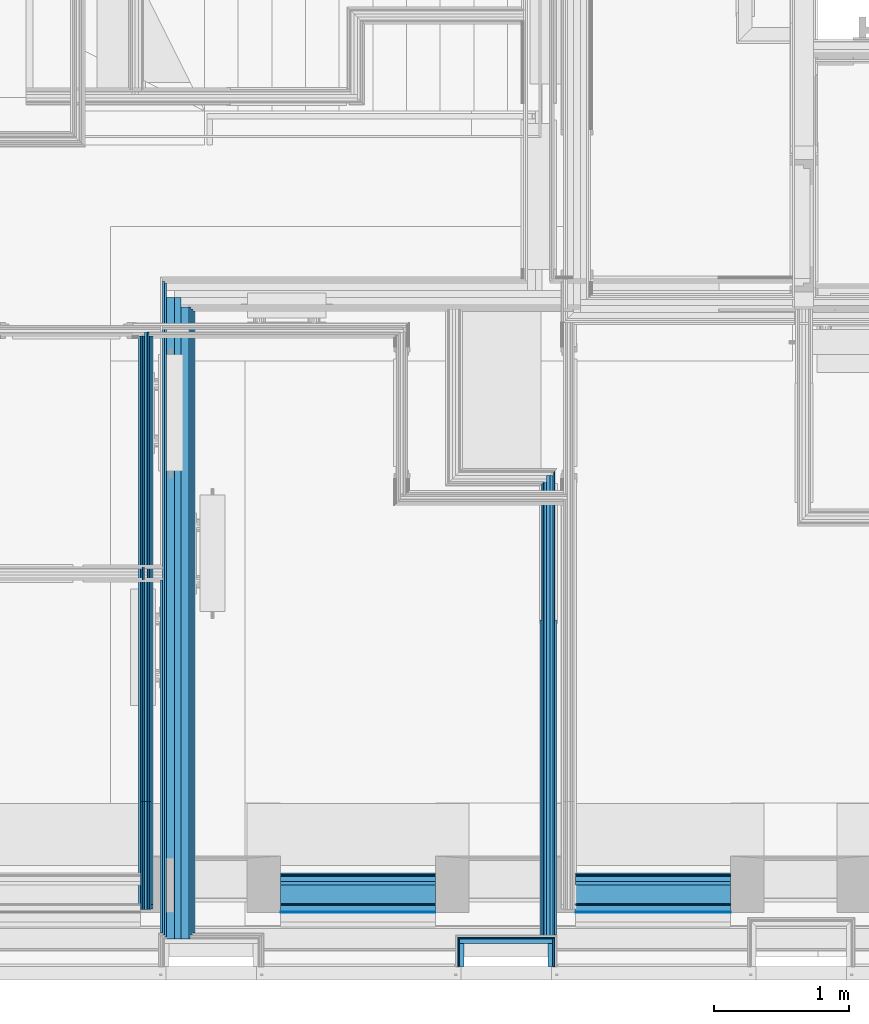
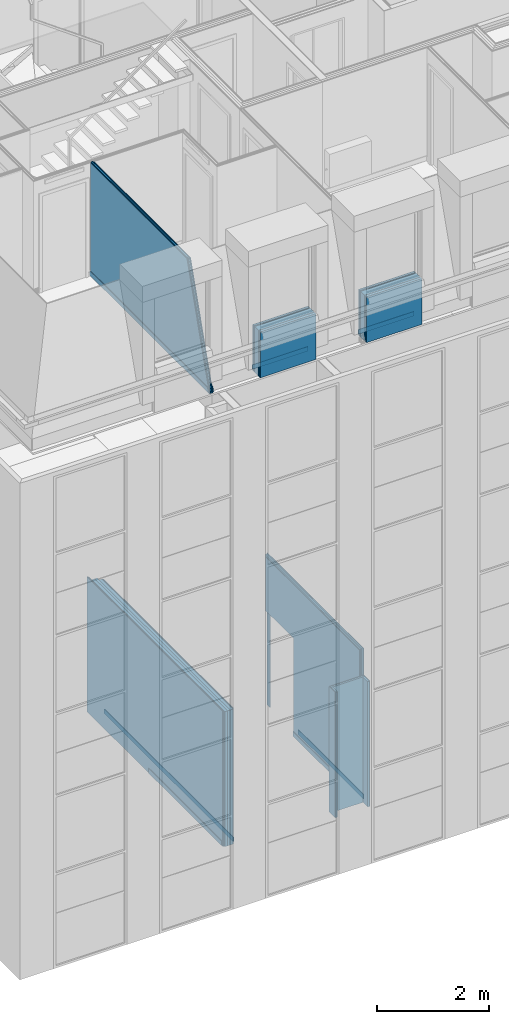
# One storey, part 15 of 169: 45 building element parts, 2 openings, 8 elements without a shape of their own.
"""IFC2X3 building model written with IfcOpenShell, lengths in metres."""

from ifc_helpers import new_model, entity, si_unit, converted_unit, derived_unit, money_unit, direction, frame, frame_2d, origin_with_axes, place, context, subcontext, project, spatial, polyline, rectangle, outline, extrude, clip, halfspace, material, type_object, element, aggregate, save


model = new_model("IFC2X3")

# Units and contexts
model_context = context("Model", 3, precision=1e-05, world=origin_with_axes(), true_north=direction((0.0, 1.0)))
body_context = subcontext(model_context, "Body", "Model", "MODEL_VIEW", scale=1.0)
ifc_project = project(units=[si_unit("LENGTHUNIT", "METRE"), si_unit("AREAUNIT", "SQUARE_METRE"), si_unit("VOLUMEUNIT", "CUBIC_METRE"), si_unit("ABSORBEDDOSEUNIT", "GRAY"), si_unit("AMOUNTOFSUBSTANCEUNIT", "MOLE"), si_unit("DOSEEQUIVALENTUNIT", "SIEVERT"), si_unit("ELECTRICCAPACITANCEUNIT", "FARAD"), si_unit("ELECTRICCHARGEUNIT", "COULOMB"), si_unit("ELECTRICCONDUCTANCEUNIT", "SIEMENS"), si_unit("ELECTRICCURRENTUNIT", "AMPERE"), si_unit("ELECTRICRESISTANCEUNIT", "OHM"), si_unit("ELECTRICVOLTAGEUNIT", "VOLT"), si_unit("ENERGYUNIT", "JOULE"), si_unit("FORCEUNIT", "NEWTON"), si_unit("FREQUENCYUNIT", "HERTZ"), si_unit("ILLUMINANCEUNIT", "LUX"), si_unit("INDUCTANCEUNIT", "HENRY"), si_unit("LUMINOUSFLUXUNIT", "LUMEN"), si_unit("LUMINOUSINTENSITYUNIT", "CANDELA"), si_unit("MAGNETICFLUXDENSITYUNIT", "TESLA"), si_unit("MAGNETICFLUXUNIT", "WEBER"), si_unit("MASSUNIT", "GRAM"), converted_unit("PLANEANGLEUNIT", "degree", entity("IfcReal", 0.0174532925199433), si_unit("PLANEANGLEUNIT", "RADIAN"), dimensions=[0, 0, 0, 0, 0, 0, 0]), si_unit("POWERUNIT", "WATT"), si_unit("PRESSUREUNIT", "PASCAL"), si_unit("RADIOACTIVITYUNIT", "BECQUEREL"), si_unit("SOLIDANGLEUNIT", "STERADIAN"), si_unit("THERMODYNAMICTEMPERATUREUNIT", "KELVIN"), si_unit("TIMEUNIT", "SECOND"), derived_unit("ACCELERATIONUNIT", [(si_unit("LENGTHUNIT", "METRE"), 1), (si_unit("TIMEUNIT", "SECOND"), -2)]), derived_unit("ANGULARVELOCITYUNIT", [(converted_unit("PLANEANGLEUNIT", "degree", entity("IfcReal", 0.0174532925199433), si_unit("PLANEANGLEUNIT", "RADIAN"), dimensions=[0, 0, 0, 0, 0, 0, 0]), 1), (si_unit("TIMEUNIT", "SECOND"), -1)]), derived_unit("CURVATUREUNIT", [(converted_unit("PLANEANGLEUNIT", "degree", entity("IfcReal", 0.0174532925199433), si_unit("PLANEANGLEUNIT", "RADIAN"), dimensions=[0, 0, 0, 0, 0, 0, 0]), 1), (si_unit("LENGTHUNIT", "METRE"), -1)]), derived_unit("DYNAMICVISCOSITYUNIT", [(si_unit("PRESSUREUNIT", "PASCAL"), 1), (si_unit("TIMEUNIT", "SECOND"), 1)]), derived_unit("HEATFLUXDENSITYUNIT", [(si_unit("POWERUNIT", "WATT"), 1), (si_unit("LENGTHUNIT", "METRE"), -2)]), derived_unit("HEATINGVALUEUNIT", [(si_unit("ENERGYUNIT", "JOULE"), 1), (si_unit("MASSUNIT", "GRAM"), -1)]), derived_unit("INTEGERCOUNTRATEUNIT", [(si_unit("TIMEUNIT", "SECOND"), -1)]), derived_unit("IONCONCENTRATIONUNIT", [(si_unit("MASSUNIT", "GRAM"), 1), (si_unit("VOLUMEUNIT", "CUBIC_METRE"), -1)]), derived_unit("ISOTHERMALMOISTURECAPACITYUNIT", [(si_unit("VOLUMEUNIT", "CUBIC_METRE"), 1), (si_unit("MASSUNIT", "GRAM"), -1)]), derived_unit("KINEMATICVISCOSITYUNIT", [(si_unit("AREAUNIT", "SQUARE_METRE"), 1), (si_unit("TIMEUNIT", "SECOND"), -1)]), derived_unit("LINEARFORCEUNIT", [(si_unit("FORCEUNIT", "NEWTON"), 1), (si_unit("LENGTHUNIT", "METRE"), -1)]), derived_unit("LINEARMOMENTUNIT", [(si_unit("FORCEUNIT", "NEWTON"), 1), (si_unit("LENGTHUNIT", "METRE"), -1)]), derived_unit("LINEARSTIFFNESSUNIT", [(si_unit("FORCEUNIT", "NEWTON"), 1), (si_unit("LENGTHUNIT", "METRE"), -1)]), derived_unit("LINEARVELOCITYUNIT", [(si_unit("LENGTHUNIT", "METRE"), 1), (si_unit("TIMEUNIT", "SECOND"), -1)]), derived_unit("LUMINOUSINTENSITYDISTRIBUTIONUNIT", [(si_unit("LUMINOUSINTENSITYUNIT", "CANDELA"), 1), (si_unit("LUMINOUSFLUXUNIT", "LUMEN"), -1)]), derived_unit("MASSDENSITYUNIT", [(si_unit("MASSUNIT", "GRAM"), 1), (si_unit("VOLUMEUNIT", "CUBIC_METRE"), -1)]), derived_unit("MASSFLOWRATEUNIT", [(si_unit("MASSUNIT", "GRAM"), 1), (si_unit("TIMEUNIT", "SECOND"), -1)]), derived_unit("MASSPERLENGTHUNIT", [(si_unit("MASSUNIT", "GRAM"), 1), (si_unit("LENGTHUNIT", "METRE"), -1)]), derived_unit("MODULUSOFELASTICITYUNIT", [(si_unit("FORCEUNIT", "NEWTON"), 1), (si_unit("AREAUNIT", "SQUARE_METRE"), -1)]), derived_unit("MODULUSOFLINEARSUBGRADEREACTIONUNIT", [(si_unit("FORCEUNIT", "NEWTON"), 1), (si_unit("LENGTHUNIT", "METRE"), -2)]), derived_unit("MODULUSOFROTATIONALSUBGRADEREACTIONUNIT", [(si_unit("FORCEUNIT", "NEWTON"), 1), (si_unit("LENGTHUNIT", "METRE"), 1)]), derived_unit("MODULUSOFSUBGRADEREACTIONUNIT", [(si_unit("FORCEUNIT", "NEWTON"), 1), (si_unit("VOLUMEUNIT", "CUBIC_METRE"), -1)]), derived_unit("MOISTUREDIFFUSIVITYUNIT", [(si_unit("VOLUMEUNIT", "CUBIC_METRE"), 1), (si_unit("TIMEUNIT", "SECOND"), -1)]), derived_unit("MOLECULARWEIGHTUNIT", [(si_unit("MASSUNIT", "GRAM"), 1), (si_unit("AMOUNTOFSUBSTANCEUNIT", "MOLE"), -1)]), derived_unit("PLANARFORCEUNIT", [(si_unit("FORCEUNIT", "NEWTON"), 1), (si_unit("LENGTHUNIT", "METRE"), -2)]), derived_unit("ROTATIONALFREQUENCYUNIT", [(si_unit("TIMEUNIT", "SECOND"), -1)]), derived_unit("ROTATIONALMASSUNIT", [(si_unit("MASSUNIT", "GRAM"), 1), (si_unit("LENGTHUNIT", "METRE"), 2)]), derived_unit("ROTATIONALSTIFFNESSUNIT", [(si_unit("FORCEUNIT", "NEWTON"), 1), (si_unit("LENGTHUNIT", "METRE"), 1), (converted_unit("PLANEANGLEUNIT", "degree", entity("IfcReal", 0.0174532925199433), si_unit("PLANEANGLEUNIT", "RADIAN"), dimensions=[0, 0, 0, 0, 0, 0, 0]), -1)]), derived_unit("SECTIONAREAINTEGRALUNIT", [(si_unit("LENGTHUNIT", "METRE"), 5)]), derived_unit("SECTIONMODULUSUNIT", [(si_unit("LENGTHUNIT", "METRE"), 3)]), derived_unit("SHEARMODULUSUNIT", [(si_unit("FORCEUNIT", "NEWTON"), 1), (si_unit("AREAUNIT", "SQUARE_METRE"), -1)]), derived_unit("SOUNDPOWERUNIT", [(si_unit("ENERGYUNIT", "JOULE"), 1), (si_unit("TIMEUNIT", "SECOND"), -1)]), derived_unit("SPECIFICHEATCAPACITYUNIT", [(si_unit("FORCEUNIT", "NEWTON"), 1), (si_unit("MASSUNIT", "GRAM"), -1), (si_unit("THERMODYNAMICTEMPERATUREUNIT", "KELVIN"), -1)]), derived_unit("TEMPERATUREGRADIENTUNIT", [(si_unit("THERMODYNAMICTEMPERATUREUNIT", "KELVIN"), 1), (si_unit("LENGTHUNIT", "METRE"), -1)]), derived_unit("THERMALADMITTANCEUNIT", [(si_unit("POWERUNIT", "WATT"), 1), (si_unit("AREAUNIT", "SQUARE_METRE"), -1), (si_unit("THERMODYNAMICTEMPERATUREUNIT", "KELVIN"), -1)]), derived_unit("THERMALCONDUCTANCEUNIT", [(si_unit("POWERUNIT", "WATT"), 1), (si_unit("LENGTHUNIT", "METRE"), -1), (si_unit("THERMODYNAMICTEMPERATUREUNIT", "KELVIN"), -1)]), derived_unit("THERMALEXPANSIONCOEFFICIENTUNIT", [(si_unit("THERMODYNAMICTEMPERATUREUNIT", "KELVIN"), -1)]), derived_unit("THERMALRESISTANCEUNIT", [(si_unit("AREAUNIT", "SQUARE_METRE"), 1), (si_unit("POWERUNIT", "WATT"), -1)]), derived_unit("THERMALTRANSMITTANCEUNIT", [(si_unit("POWERUNIT", "WATT"), 1), (si_unit("AREAUNIT", "SQUARE_METRE"), -1), (si_unit("THERMODYNAMICTEMPERATUREUNIT", "KELVIN"), -1)]), derived_unit("TORQUEUNIT", [(si_unit("FORCEUNIT", "NEWTON"), 1), (si_unit("LENGTHUNIT", "METRE"), 1)]), derived_unit("VAPORPERMEABILITYUNIT", [(si_unit("MASSUNIT", "GRAM"), 1), (si_unit("TIMEUNIT", "SECOND"), -1)]), derived_unit("VOLUMETRICFLOWRATEUNIT", [(si_unit("VOLUMEUNIT", "CUBIC_METRE"), 1), (si_unit("TIMEUNIT", "SECOND"), -1)]), derived_unit("WARPINGCONSTANTUNIT", [(si_unit("LENGTHUNIT", "METRE"), 6)]), derived_unit("WARPINGMOMENTUNIT", [(si_unit("FORCEUNIT", "NEWTON"), 1), (si_unit("LENGTHUNIT", "METRE"), 2)]), money_unit("GBP")], contexts=[model_context])

# Site, building, storey
site_placement = place(None, origin_with_axes())
site = spatial("IfcSite", under=ifc_project, at=site_placement, Name="Site", CompositionType="ELEMENT")
building_placement = place(site_placement, origin_with_axes())
building = spatial("IfcBuilding", under=site, at=building_placement, Name="Building01", CompositionType="ELEMENT")
storey_placement = place(building_placement, frame((0.0, 0.0, 5.15), z_axis=(0.0, 0.0, 1.0), x_axis=(1.0, 0.0, 0.0)))
storey = spatial("IfcBuildingStorey", under=building, at=storey_placement, Name="1F", CompositionType="ELEMENT", Elevation=5.15)

# Wall, building element parts
wall_type_1 = type_object("IfcWallType", Name="SHE_A-Walls_Type06d_ExternalWallInsulation_48mm", PredefinedType="NOTDEFINED")
wall_1_placement = place(storey_placement, frame((6.623, 0.1, 0.0), z_axis=(0.0, 0.0, 1.0), x_axis=(0.0, 1.0, 0.0)))
wall_1 = element("IfcWall", 1, at=wall_1_placement, inside=storey, type_object=wall_type_1, Name="6D", ObjectType="SHE_A-Walls_Type06d_ExternalWallInsulation_48mm")
ifc_material_1 = material(Name="A_BSUK_Insulation")
placement_1 = place(wall_1_placement, origin_with_axes())
building_element_part_1 = element("IfcBuildingElementPart", 2, at=placement_1, material=ifc_material_1, Name="1", context=body_context, shape_type="SweptSolid", body=[
    extrude(rectangle(XDim=0.17, YDim=0.036, at=frame_2d((0.085, 0.018), x_axis=(-1.0, 0.0))), origin_with_axes(), (0.0, 0.0, 1.0), 2.74),
])
ifc_material_2 = material(Name="A_BSUK_WallInternal_Finishes_Plasterboard")
building_element_part_2 = element("IfcBuildingElementPart", 3, at=placement_1, material=ifc_material_2, Name="2", context=body_context, shape_type="SweptSolid", body=[
    extrude(outline(polyline([(0.218, 0.048), (0.0, 0.048), (0.0, 0.035), (0.205, 0.035), (0.218, 0.048)])), origin_with_axes(), (0.0, 0.0, 1.0), 2.74),
])
aggregate(wall_1, [building_element_part_1, building_element_part_2])

wall_2_placement = place(storey_placement, frame((7.247, 0.27, 0.0), z_axis=(0.0, 0.0, 1.0), x_axis=(0.0, -1.0, 0.0)))
wall_2 = element("IfcWall", 4, at=wall_2_placement, inside=storey, type_object=wall_type_1, Name="6D", ObjectType="SHE_A-Walls_Type06d_ExternalWallInsulation_48mm")
placement_2 = place(wall_2_placement, origin_with_axes())
building_element_part_3 = element("IfcBuildingElementPart", 5, at=placement_2, material=ifc_material_1, Name="1", context=body_context, shape_type="SweptSolid", body=[
    extrude(rectangle(XDim=0.036, YDim=0.17, at=frame_2d((0.085, 0.018), x_axis=(0.0, -1.0))), origin_with_axes(), (0.0, 0.0, 1.0), 2.74),
])
building_element_part_4 = element("IfcBuildingElementPart", 6, at=placement_2, material=ifc_material_2, Name="2", context=body_context, shape_type="SweptSolid", body=[
    extrude(outline(polyline([(-0.048, 0.048), (-0.035, 0.035), (0.17, 0.035), (0.17, 0.048), (-0.048, 0.048)])), origin_with_axes(), (0.0, 0.0, 1.0), 2.74),
])
aggregate(wall_2, [building_element_part_3, building_element_part_4])

wall_type_2 = type_object("IfcWallType", Name="SHE_A-Walls_Type01c_Partywall_225mm_twin_tall", PredefinedType="NOTDEFINED")
wall_3_placement = place(storey_placement, frame((4.522, 0.306, 0.0), z_axis=(0.0, 0.0, 1.0), x_axis=(0.0, 1.0, 0.0)))
wall_3 = element("IfcWall", 7, at=wall_3_placement, inside=storey, type_object=wall_type_2, Name="1C", ObjectType="SHE_A-Walls_Type01c_Partywall_225mm_twin_tall")
ifc_material_3 = material(Name="A_BSUK_Walls_Timber")
placement_3 = place(wall_3_placement, origin_with_axes())
building_element_part_5 = element("IfcBuildingElementPart", 8, at=placement_3, material=ifc_material_3, Name="1", context=body_context, shape_type="SweptSolid", body=[
    extrude(rectangle(XDim=4.617, YDim=0.015, at=frame_2d((2.3505, -0.0955), x_axis=(-1.0, 0.0))), frame((0.0, 0.0, 0.015), z_axis=(0.0, 0.0, 1.0), x_axis=(1.0, 0.0, 0.0)), (0.0, 0.0, 1.0), 0.1),
])
building_element_part_6 = element("IfcBuildingElementPart", 9, at=placement_3, material=ifc_material_2, Name="2", context=body_context, shape_type="SweptSolid", body=[
    extrude(rectangle(XDim=4.647, YDim=0.015, at=frame_2d((2.3505, -0.0805), x_axis=(-1.0, 0.0))), origin_with_axes(), (0.0, 0.0, 1.0), 2.95),
])
building_element_part_7 = element("IfcBuildingElementPart", 10, at=placement_3, material=ifc_material_2, Name="3", context=body_context, shape_type="SweptSolid", body=[
    extrude(rectangle(XDim=4.689, YDim=0.015, at=frame_2d((2.3445, -0.0655), x_axis=(-1.0, 0.0))), origin_with_axes(), (0.0, 0.0, 1.0), 2.95),
])
ifc_material_4 = material(Name="Air Cavity")
building_element_part_8 = element("IfcBuildingElementPart", 11, at=placement_3, material=ifc_material_4, Name="4", context=body_context, shape_type="SweptSolid", body=[
    extrude(rectangle(XDim=4.689, YDim=0.058, at=frame_2d((2.3445, -0.029), x_axis=(-1.0, 0.0))), origin_with_axes(), (0.0, 0.0, 1.0), 2.95),
])
building_element_part_9 = element("IfcBuildingElementPart", 12, at=placement_3, material=ifc_material_1, Name="5", context=body_context, shape_type="SweptSolid", body=[
    extrude(rectangle(XDim=4.761, YDim=0.05, at=frame_2d((2.3805, 0.025), x_axis=(-1.0, 0.0))), origin_with_axes(), (0.0, 0.0, 1.0), 2.95),
])
building_element_part_10 = element("IfcBuildingElementPart", 13, at=placement_3, material=ifc_material_4, Name="6", context=body_context, shape_type="SweptSolid", body=[
    extrude(rectangle(XDim=4.761, YDim=0.057, at=frame_2d((2.3805, 0.0785), x_axis=(-1.0, 0.0))), origin_with_axes(), (0.0, 0.0, 1.0), 2.95),
])
building_element_part_11 = element("IfcBuildingElementPart", 14, at=placement_3, material=ifc_material_2, Name="7", context=body_context, shape_type="SweptSolid", body=[
    extrude(rectangle(XDim=4.857, YDim=0.015, at=frame_2d((2.4405, 0.1145), x_axis=(-1.0, 0.0))), origin_with_axes(), (0.0, 0.0, 1.0), 2.95),
])
building_element_part_12 = element("IfcBuildingElementPart", 15, at=placement_3, material=ifc_material_2, Name="8", context=body_context, shape_type="SweptSolid", body=[
    extrude(rectangle(XDim=4.857, YDim=0.015, at=frame_2d((2.4555, 0.1295), x_axis=(-1.0, 0.0))), origin_with_axes(), (0.0, 0.0, 1.0), 2.95),
])
building_element_part_13 = element("IfcBuildingElementPart", 16, at=placement_3, material=ifc_material_3, Name="9", context=body_context, shape_type="SweptSolid", body=[
    extrude(rectangle(XDim=2.622286, YDim=0.015, at=frame_2d((1.353143, 0.1445), x_axis=(-1.0, 0.0))), frame((0.0, 0.0, 0.015), z_axis=(0.0, 0.0, 1.0), x_axis=(1.0, 0.0, 0.0)), (0.0, 0.0, 1.0), 0.1),
])
aggregate(wall_3, [building_element_part_5, building_element_part_6, building_element_part_7, building_element_part_8, building_element_part_9, building_element_part_10, building_element_part_11, building_element_part_12, building_element_part_13])

# Wall, openings, building element parts
wall_type_3 = type_object("IfcWallType", Name="SHE_A-Walls_Type05a_Partition_95mm_tall", PredefinedType="NOTDEFINED")
wall_4_placement = place(storey_placement, frame((7.26, 3.745, 0.0), z_axis=(0.0, 0.0, 1.0), x_axis=(0.0, -1.0, 0.0)))
wall_4 = element("IfcWall", 17, at=wall_4_placement, inside=storey, type_object=wall_type_3, Name="5A", ObjectType="SHE_A-Walls_Type05a_Partition_95mm_tall")
opening_1_placement = place(wall_4_placement, frame((0.129, -0.075, -0.015), z_axis=(0.0, 0.0, 1.0), x_axis=(1.0, 0.0, 0.0)))
element("IfcOpeningElement", 18, at=opening_1_placement, cuts=wall_4, Name="Opening", ObjectType="Opening", context=body_context, shape_type="SweptSolid", body=[
    extrude(outline(polyline([(0.0, 2.142), (-0.9, 2.142), (-0.9, 0.015), (-0.464219, 0.015), (-0.464219, 0.0), (0.0, 0.0), (0.0, 2.142)])), frame((0.0, 0.0, 0.0), z_axis=(0.0, 1.0, 0.0), x_axis=(-1.0, 0.0, 0.0)), (0.0, 0.0, 1.0), 0.125),
    extrude(outline(polyline([(0.619781, 2.157), (-0.942, 2.157), (-0.942, 0.015), (-0.464219, 0.015), (-0.464219, 0.0), (0.619781, 0.0), (0.619781, 2.157)])), frame((0.0, 0.015, 0.0), z_axis=(0.0, 1.0, 0.0), x_axis=(-1.0, 0.0, 0.0)), (0.0, 0.0, 1.0), 0.012),
    extrude(outline(polyline([(0.619781, 2.157), (-0.942, 2.157), (-0.942, 0.015), (-0.464219, 0.015), (-0.464219, 0.0), (0.619781, 0.0), (0.619781, 2.157)])), frame((0.0, 0.027, 0.0), z_axis=(0.0, 1.0, 0.0), x_axis=(-1.0, 0.0, 0.0)), (0.0, 0.0, 1.0), 0.023),
    extrude(outline(polyline([(0.619781, 2.157), (-0.942, 2.157), (-0.942, 0.015), (-0.464219, 0.015), (-0.464219, 0.0), (0.619781, 0.0), (0.619781, 2.157)])), frame((0.0, 0.05, 0.0), z_axis=(0.0, 1.0, 0.0), x_axis=(-1.0, 0.0, 0.0)), (0.0, 0.0, 1.0), 0.025),
    extrude(outline(polyline([(0.619781, 2.157), (-0.942, 2.157), (-0.942, 0.015), (-0.464219, 0.015), (-0.464219, 0.0), (0.619781, 0.0), (0.619781, 2.157)])), frame((0.0, 0.075, 0.0), z_axis=(0.0, 1.0, 0.0), x_axis=(-1.0, 0.0, 0.0)), (0.0, 0.0, 1.0), 0.023),
    extrude(rectangle(XDim=0.9, YDim=2.142, at=frame_2d((-0.45, 1.071), x_axis=(-1.0, 0.0))), frame((0.0, 0.098, 0.0), z_axis=(0.0, 1.0, 0.0), x_axis=(-1.0, 0.0, 0.0)), (0.0, 0.0, 1.0), 0.012),
    extrude(outline(polyline([(0.042, 2.142), (0.042, 2.157), (-0.942, 2.157), (-0.942, 0.015), (-0.464219, 0.015), (-0.464219, 0.0), (0.619781, 0.0), (0.619781, 2.142), (0.042, 2.142)])), frame((0.0, 0.0, 0.0), z_axis=(0.0, 1.0, 0.0), x_axis=(-1.0, 0.0, 0.0)), (0.0, 0.0, 1.0), 0.098),
    extrude(outline(polyline([(0.042, 2.142), (0.042, 2.157), (-0.942, 2.157), (-0.942, 0.015), (-0.464219, 0.015), (-0.464219, 0.0), (0.619781, 0.0), (0.619781, 2.142), (0.042, 2.142)])), frame((0.0, 0.11, 0.0), z_axis=(0.0, 1.0, 0.0), x_axis=(-1.0, 0.0, 0.0)), (0.0, 0.0, 1.0), 0.015),
])
opening_2_placement = place(wall_4_placement, frame((0.087, 0.023, 0.0), z_axis=(0.0, 0.0, 1.0), x_axis=(1.0, 0.0, 0.0)))
element("IfcOpeningElement", 19, at=opening_2_placement, cuts=wall_4, Name="Opening", ObjectType="Recess", context=body_context, shape_type="SweptSolid", body=[
    extrude(rectangle(XDim=2.142, YDim=0.984, at=frame_2d((-0.492, 1.071), x_axis=(0.0, 1.0))), frame((0.0, 0.0, 0.0), z_axis=(0.0, 1.0, 0.0), x_axis=(-1.0, 0.0, 0.0)), (0.0, 0.0, 1.0), 0.012),
])
placement_4 = place(wall_4_placement, origin_with_axes())
building_element_part_14 = element("IfcBuildingElementPart", 20, at=placement_4, material=ifc_material_3, Name="1", context=body_context, shape_type="SweptSolid", body=[
    extrude(outline(polyline([(3.427, -0.06), (0.06, -0.06), (0.075, -0.075), (3.427, -0.075), (3.427, -0.06)])), frame((0.0, 0.0, 0.015), z_axis=(0.0, 0.0, 1.0), x_axis=(1.0, 0.0, 0.0)), (0.0, 0.0, 1.0), 0.1),
])
building_element_part_15 = element("IfcBuildingElementPart", 21, at=placement_4, material=ifc_material_2, Name="2", context=body_context, shape_type="SweptSolid", body=[
    extrude(outline(polyline([(3.427, -0.048), (0.048, -0.048), (0.06, -0.06), (3.427, -0.06), (3.427, -0.048)])), origin_with_axes(), (0.0, 0.0, 1.0), 3.32),
])
building_element_part_16 = element("IfcBuildingElementPart", 22, at=placement_4, material=ifc_material_4, Name="3", context=body_context, shape_type="SweptSolid", body=[
    extrude(outline(polyline([(3.427, -0.025), (0.025, -0.025), (0.048, -0.048), (3.427, -0.048), (3.427, -0.025)])), origin_with_axes(), (0.0, 0.0, 1.0), 3.32),
])
building_element_part_17 = element("IfcBuildingElementPart", 23, at=placement_4, material=ifc_material_1, Name="4", context=body_context, shape_type="SweptSolid", body=[
    extrude(rectangle(XDim=3.427, YDim=0.025, at=frame_2d((1.7135, -0.0125), x_axis=(-1.0, 0.0))), origin_with_axes(), (0.0, 0.0, 1.0), 3.32),
])
building_element_part_18 = element("IfcBuildingElementPart", 24, at=placement_4, material=ifc_material_4, Name="5", context=body_context, shape_type="SweptSolid", body=[
    extrude(rectangle(XDim=3.427, YDim=0.023, at=frame_2d((1.7135, 0.0115), x_axis=(-1.0, 0.0))), origin_with_axes(), (0.0, 0.0, 1.0), 3.32),
])
building_element_part_19 = element("IfcBuildingElementPart", 25, at=placement_4, material=ifc_material_2, Name="6", context=body_context, shape_type="SweptSolid", body=[
    extrude(outline(polyline([(3.427, 0.035), (-0.035, 0.035), (-0.023, 0.023), (3.427, 0.023), (3.427, 0.035)])), origin_with_axes(), (0.0, 0.0, 1.0), 3.32),
])
building_element_part_20 = element("IfcBuildingElementPart", 26, at=placement_4, material=ifc_material_3, Name="7", context=body_context, shape_type="SweptSolid", body=[
    extrude(outline(polyline([(3.412, 0.05), (-0.05, 0.05), (-0.035, 0.035), (3.412, 0.035), (3.412, 0.05)])), frame((0.0, 0.0, 0.015), z_axis=(0.0, 0.0, 1.0), x_axis=(1.0, 0.0, 0.0)), (0.0, 0.0, 1.0), 0.1),
])
aggregate(wall_4, [building_element_part_14, building_element_part_15, building_element_part_16, building_element_part_17, building_element_part_18, building_element_part_19, building_element_part_20])

# Wall, building element parts
wall_5_placement = place(storey_placement, frame((6.587, 0.27, 0.0), z_axis=(0.0, 0.0, 1.0), x_axis=(1.0, 0.0, 0.0)))
wall_5 = element("IfcWall", 27, at=wall_5_placement, inside=storey, type_object=wall_type_1, Name="6D", ObjectType="SHE_A-Walls_Type06d_ExternalWallInsulation_48mm")
placement_5 = place(wall_5_placement, origin_with_axes())
building_element_part_21 = element("IfcBuildingElementPart", 28, at=placement_5, material=ifc_material_1, Name="1", context=body_context, shape_type="SweptSolid", body=[
    extrude(rectangle(XDim=0.696, YDim=0.036, at=frame_2d((0.348, 0.018), x_axis=(-1.0, 0.0))), origin_with_axes(), (0.0, 0.0, 1.0), 2.74),
])
building_element_part_22 = element("IfcBuildingElementPart", 29, at=placement_5, material=ifc_material_2, Name="2", context=body_context, shape_type="SweptSolid", body=[
    extrude(outline(polyline([(0.708, 0.048), (-0.012, 0.048), (0.001, 0.035), (0.695, 0.035), (0.708, 0.048)])), origin_with_axes(), (0.0, 0.0, 1.0), 2.74),
])
aggregate(wall_5, [building_element_part_21, building_element_part_22])

wall_type_4 = type_object("IfcWallType", Name="SHE_A-Walls_Type05b_Partition_80mm", PredefinedType="NOTDEFINED")
wall_6_placement = place(storey_placement, frame((4.246976, 4.806939, 9.83), z_axis=(0.0, 0.0, 1.0), x_axis=(0.0, -1.0, 0.0)))
wall_6 = element("IfcWall", 30, at=wall_6_placement, inside=storey, type_object=wall_type_4, Name="5B", ObjectType="SHE_A-Walls_Type05b_Partition_80mm")
placement_6 = place(wall_6_placement, origin_with_axes())
building_element_part_23 = element("IfcBuildingElementPart", 31, at=placement_6, material=ifc_material_3, Name="1", context=body_context, shape_type="Clipping", body=[
    clip(extrude(rectangle(XDim=4.251209, YDim=0.015, at=frame_2d((2.152605, -0.0345), x_axis=(-1.0, 0.0))), frame((0.0, 0.0, 0.015), z_axis=(0.0, 0.0, 1.0), x_axis=(1.0, 0.0, 0.0)), (0.0, 0.0, 1.0), 0.1), halfspace(frame((3.874085, 0.0, 1.258766), z_axis=(-0.95105652, 0.0, -0.30901699), x_axis=(0.0, -1.0, 0.0)), True)),
])
building_element_part_24 = element("IfcBuildingElementPart", 32, at=placement_6, material=ifc_material_2, Name="2", context=body_context, shape_type="Clipping", body=[
    clip(extrude(rectangle(XDim=4.256083, YDim=0.015, at=frame_2d((2.155041, -0.0195), x_axis=(-1.0, 0.0))), origin_with_axes(), (0.0, 0.0, 1.0), 2.468), halfspace(frame((3.874085, 0.0, 1.258766), z_axis=(-0.95105652, 0.0, -0.30901699), x_axis=(0.0, -1.0, 0.0)), True)),
])
building_element_part_25 = element("IfcBuildingElementPart", 33, at=placement_6, material=ifc_material_4, Name="3", context=body_context, shape_type="Clipping", body=[
    clip(extrude(rectangle(XDim=4.256083, YDim=0.012, at=frame_2d((2.155041, -0.006), x_axis=(-1.0, 0.0))), origin_with_axes(), (0.0, 0.0, 1.0), 2.468), halfspace(frame((3.874085, 0.0, 1.258766), z_axis=(-0.95105652, 0.0, -0.30901699), x_axis=(0.0, -1.0, 0.0)), True)),
])
building_element_part_26 = element("IfcBuildingElementPart", 34, at=placement_6, material=ifc_material_1, Name="4", context=body_context, shape_type="Clipping", body=[
    clip(extrude(rectangle(XDim=4.283083, YDim=0.025, at=frame_2d((2.141541, 0.0125), x_axis=(-1.0, 0.0))), origin_with_axes(), (0.0, 0.0, 1.0), 2.468), halfspace(frame((3.874085, 0.0, 1.258766), z_axis=(-0.95105652, 0.0, -0.30901699), x_axis=(0.0, -1.0, 0.0)), True)),
])
building_element_part_27 = element("IfcBuildingElementPart", 35, at=placement_6, material=ifc_material_4, Name="5", context=body_context, shape_type="Clipping", body=[
    clip(extrude(rectangle(XDim=4.283083, YDim=0.013, at=frame_2d((2.141541, 0.0315), x_axis=(-1.0, 0.0))), origin_with_axes(), (0.0, 0.0, 1.0), 2.468), halfspace(frame((3.874085, 0.0, 1.258766), z_axis=(-0.95105652, 0.0, -0.30901699), x_axis=(0.0, -1.0, 0.0)), True)),
])
building_element_part_28 = element("IfcBuildingElementPart", 36, at=placement_6, material=ifc_material_2, Name="6", context=body_context, shape_type="Clipping", body=[
    clip(extrude(rectangle(XDim=4.256083, YDim=0.015, at=frame_2d((2.155041, 0.0455), x_axis=(-1.0, 0.0))), origin_with_axes(), (0.0, 0.0, 1.0), 2.468), halfspace(frame((3.874085, 0.0, 1.258766), z_axis=(-0.95105652, 0.0, -0.30901699), x_axis=(0.0, -1.0, 0.0)), True)),
])
building_element_part_29 = element("IfcBuildingElementPart", 37, at=placement_6, material=ifc_material_3, Name="7", context=body_context, shape_type="Clipping", body=[
    clip(extrude(rectangle(XDim=4.251209, YDim=0.015, at=frame_2d((2.152605, 0.0605), x_axis=(-1.0, 0.0))), frame((0.0, 0.0, 0.015), z_axis=(0.0, 0.0, 1.0), x_axis=(1.0, 0.0, 0.0)), (0.0, 0.0, 1.0), 0.1), halfspace(frame((3.874085, 0.0, 1.258766), z_axis=(-0.95105652, 0.0, -0.30901699), x_axis=(0.0, -1.0, 0.0)), True)),
])
aggregate(wall_6, [building_element_part_23, building_element_part_24, building_element_part_25, building_element_part_26, building_element_part_27, building_element_part_28, building_element_part_29])

wall_type_5 = type_object("IfcWallType", Name="SHE_A-Walls_Type06e_ExternalWallPenthouse_280mm", PredefinedType="NOTDEFINED")
wall_7_placement = place(storey_placement, frame((8.599976, 0.565, 9.83), z_axis=(0.0, 0.0, 1.0), x_axis=(-1.0, 0.0, 0.0)))
wall_7 = element("IfcWall", 38, at=wall_7_placement, inside=storey, type_object=wall_type_5, Name="6E", ObjectType="SHE_A-Walls_Type06e_ExternalWallPenthouse_280mm")
placement_7 = place(wall_7_placement, origin_with_axes())
building_element_part_30 = element("IfcBuildingElementPart", 39, at=placement_7, material=ifc_material_3, Name="1", context=body_context, shape_type="SweptSolid", body=[
    extrude(rectangle(XDim=1.149951, YDim=0.015, at=frame_2d((0.574976, -0.2225), x_axis=(-1.0, 0.0))), frame((0.0, 0.0, 0.015), z_axis=(0.0, 0.0, 1.0), x_axis=(1.0, 0.0, 0.0)), (0.0, 0.0, 1.0), 0.1),
])
building_element_part_31 = element("IfcBuildingElementPart", 40, at=placement_7, material=ifc_material_2, Name="2", context=body_context, shape_type="SweptSolid", body=[
    extrude(rectangle(XDim=1.149951, YDim=0.01, at=frame_2d((0.574976, -0.21), x_axis=(-1.0, 0.0))), origin_with_axes(), (0.0, 0.0, 1.0), 1.0),
])
building_element_part_32 = element("IfcBuildingElementPart", 41, at=placement_7, material=ifc_material_1, Name="3", context=body_context, shape_type="SweptSolid", body=[
    extrude(rectangle(XDim=1.149951, YDim=0.04, at=frame_2d((0.574976, -0.185), x_axis=(-1.0, 0.0))), origin_with_axes(), (0.0, 0.0, 1.0), 1.0),
])
building_element_part_33 = element("IfcBuildingElementPart", 42, at=placement_7, material=ifc_material_4, Name="4", context=body_context, shape_type="SweptSolid", body=[
    extrude(rectangle(XDim=1.149951, YDim=0.025, at=frame_2d((0.574976, -0.1525), x_axis=(-1.0, 0.0))), origin_with_axes(), (0.0, 0.0, 1.0), 1.0),
])
building_element_part_34 = element("IfcBuildingElementPart", 43, at=placement_7, material=ifc_material_1, Name="5", context=body_context, shape_type="SweptSolid", body=[
    extrude(rectangle(XDim=1.149951, YDim=0.14, at=frame_2d((0.574976, -0.07), x_axis=(-1.0, 0.0))), origin_with_axes(), (0.0, 0.0, 1.0), 1.0),
])
building_element_part_35 = element("IfcBuildingElementPart", 44, at=placement_7, material=ifc_material_3, Name="6", context=body_context, shape_type="SweptSolid", body=[
    extrude(rectangle(XDim=1.149951, YDim=0.01, at=frame_2d((0.574976, 0.005), x_axis=(-1.0, 0.0))), origin_with_axes(), (0.0, 0.0, 1.0), 1.0),
])
building_element_part_36 = element("IfcBuildingElementPart", 45, at=placement_7, material=ifc_material_4, Name="7", context=body_context, shape_type="SweptSolid", body=[
    extrude(rectangle(XDim=1.149951, YDim=0.05, at=frame_2d((0.574976, 0.035), x_axis=(-1.0, 0.0))), origin_with_axes(), (0.0, 0.0, 1.0), 1.0),
])
ifc_material_5 = material(Name="A_BSUK_WallInternal_Finishes_Metal")
building_element_part_37 = element("IfcBuildingElementPart", 46, at=placement_7, material=ifc_material_5, Name="8", context=body_context, shape_type="SweptSolid", body=[
    extrude(rectangle(XDim=1.149951, YDim=0.005, at=frame_2d((0.574976, 0.0625), x_axis=(-1.0, 0.0))), origin_with_axes(), (0.0, 0.0, 1.0), 1.0),
])
aggregate(wall_7, [building_element_part_30, building_element_part_31, building_element_part_32, building_element_part_33, building_element_part_34, building_element_part_35, building_element_part_36, building_element_part_37])

wall_8_placement = place(storey_placement, frame((6.409976, 0.565, 9.83), z_axis=(0.0, 0.0, 1.0), x_axis=(-1.0, 0.0, 0.0)))
wall_8 = element("IfcWall", 47, at=wall_8_placement, inside=storey, type_object=wall_type_5, Name="6E", ObjectType="SHE_A-Walls_Type06e_ExternalWallPenthouse_280mm")
placement_8 = place(wall_8_placement, origin_with_axes())
building_element_part_38 = element("IfcBuildingElementPart", 48, at=placement_8, material=ifc_material_3, Name="1", context=body_context, shape_type="SweptSolid", body=[
    extrude(rectangle(XDim=1.149951, YDim=0.015, at=frame_2d((0.574976, -0.2225), x_axis=(-1.0, 0.0))), frame((0.0, 0.0, 0.015), z_axis=(0.0, 0.0, 1.0), x_axis=(1.0, 0.0, 0.0)), (0.0, 0.0, 1.0), 0.1),
])
building_element_part_39 = element("IfcBuildingElementPart", 49, at=placement_8, material=ifc_material_2, Name="2", context=body_context, shape_type="SweptSolid", body=[
    extrude(rectangle(XDim=1.149951, YDim=0.01, at=frame_2d((0.574976, -0.21), x_axis=(-1.0, 0.0))), origin_with_axes(), (0.0, 0.0, 1.0), 1.0),
])
building_element_part_40 = element("IfcBuildingElementPart", 50, at=placement_8, material=ifc_material_1, Name="3", context=body_context, shape_type="SweptSolid", body=[
    extrude(rectangle(XDim=1.149951, YDim=0.04, at=frame_2d((0.574976, -0.185), x_axis=(-1.0, 0.0))), origin_with_axes(), (0.0, 0.0, 1.0), 1.0),
])
building_element_part_41 = element("IfcBuildingElementPart", 51, at=placement_8, material=ifc_material_4, Name="4", context=body_context, shape_type="SweptSolid", body=[
    extrude(rectangle(XDim=1.149951, YDim=0.025, at=frame_2d((0.574976, -0.1525), x_axis=(-1.0, 0.0))), origin_with_axes(), (0.0, 0.0, 1.0), 1.0),
])
building_element_part_42 = element("IfcBuildingElementPart", 52, at=placement_8, material=ifc_material_1, Name="5", context=body_context, shape_type="SweptSolid", body=[
    extrude(rectangle(XDim=1.149951, YDim=0.14, at=frame_2d((0.574976, -0.07), x_axis=(-1.0, 0.0))), origin_with_axes(), (0.0, 0.0, 1.0), 1.0),
])
building_element_part_43 = element("IfcBuildingElementPart", 53, at=placement_8, material=ifc_material_3, Name="6", context=body_context, shape_type="SweptSolid", body=[
    extrude(rectangle(XDim=1.149951, YDim=0.01, at=frame_2d((0.574976, 0.005), x_axis=(-1.0, 0.0))), origin_with_axes(), (0.0, 0.0, 1.0), 1.0),
])
building_element_part_44 = element("IfcBuildingElementPart", 54, at=placement_8, material=ifc_material_4, Name="7", context=body_context, shape_type="SweptSolid", body=[
    extrude(rectangle(XDim=1.149951, YDim=0.05, at=frame_2d((0.574976, 0.035), x_axis=(-1.0, 0.0))), origin_with_axes(), (0.0, 0.0, 1.0), 1.0),
])
building_element_part_45 = element("IfcBuildingElementPart", 55, at=placement_8, material=ifc_material_5, Name="8", context=body_context, shape_type="SweptSolid", body=[
    extrude(rectangle(XDim=1.149951, YDim=0.005, at=frame_2d((0.574976, 0.0625), x_axis=(-1.0, 0.0))), origin_with_axes(), (0.0, 0.0, 1.0), 1.0),
])
aggregate(wall_8, [building_element_part_38, building_element_part_39, building_element_part_40, building_element_part_41, building_element_part_42, building_element_part_43, building_element_part_44, building_element_part_45])

save(model, "model.ifc")
